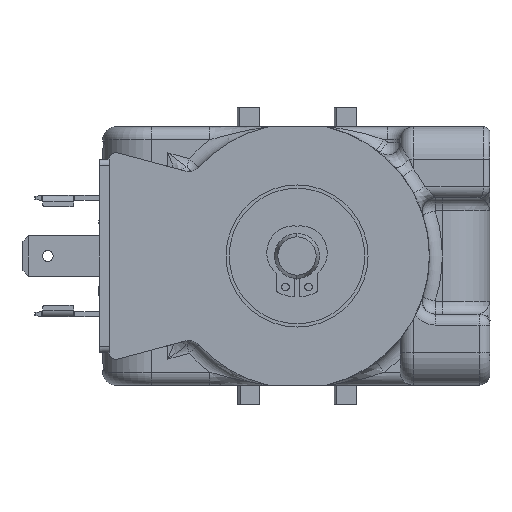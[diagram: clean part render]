
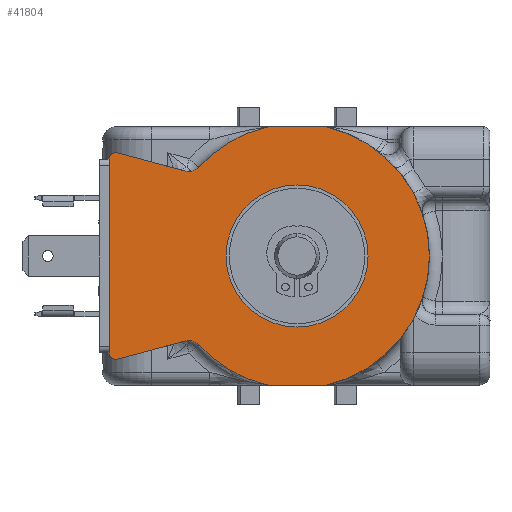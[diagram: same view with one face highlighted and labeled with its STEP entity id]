
A CAD part, front view. The second image highlights one B-rep face of the part: STEP entity #41804.
In plain terms, the highlighted planar face has unit normal (0, -1, 0).
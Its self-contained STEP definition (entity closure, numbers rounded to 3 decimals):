
#1483=DIRECTION('',(-1.,0.,0.));
#1484=VECTOR('',#1483,8.772);
#1485=CARTESIAN_POINT('',(4.5,-1.05,20.));
#1486=LINE('',#1485,#1484);
#3994=CARTESIAN_POINT('',(-28.107,-1.05,-15.025));
#3995=DIRECTION('',(0.,1.,0.));
#3996=DIRECTION('',(0.259,0.,-0.966));
#3997=AXIS2_PLACEMENT_3D('',#3994,#3995,#3996);
#4002=CARTESIAN_POINT('',(-28.107,-1.05,15.025));
#4003=DIRECTION('',(0.,1.,0.));
#4004=DIRECTION('',(-1.,0.,0.));
#4005=AXIS2_PLACEMENT_3D('',#4002,#4003,#4004);
#4010=DIRECTION('',(0.966,0.,-0.259));
#4011=VECTOR('',#4010,11.002);
#4012=CARTESIAN_POINT('',(-27.848,-1.05,15.991));
#4013=LINE('',#4012,#4011);
#4017=CARTESIAN_POINT('',(-16.703,-1.05,15.075));
#4018=DIRECTION('',(0.,-1.,0.));
#4019=DIRECTION('',(-0.259,0.,-0.966));
#4020=AXIS2_PLACEMENT_3D('',#4017,#4018,#4019);
#4025=CARTESIAN_POINT('',(0.,-1.05,0.));
#4026=DIRECTION('',(0.,1.,0.));
#4027=DIRECTION('',(-0.742,0.,0.67));
#4028=AXIS2_PLACEMENT_3D('',#4025,#4026,#4027);
#4033=CARTESIAN_POINT('',(-4.272,-1.05,18.));
#4034=DIRECTION('',(0.,1.,0.));
#4035=DIRECTION('',(-0.231,0.,0.973));
#4036=AXIS2_PLACEMENT_3D('',#4033,#4034,#4035);
#4041=CARTESIAN_POINT('',(0.,-1.05,0.));
#4042=DIRECTION('',(0.,1.,0.));
#4043=DIRECTION('',(0.22,0.,0.976));
#4044=AXIS2_PLACEMENT_3D('',#4041,#4042,#4043);
#4049=CARTESIAN_POINT('',(0.,-1.05,0.));
#4050=DIRECTION('',(0.,1.,0.));
#4051=DIRECTION('',(1.,0.,0.));
#4052=AXIS2_PLACEMENT_3D('',#4049,#4050,#4051);
#4057=DIRECTION('',(-1.,0.,0.));
#4058=VECTOR('',#4057,8.772);
#4059=CARTESIAN_POINT('',(4.5,-1.05,-20.));
#4060=LINE('',#4059,#4058);
#4064=CARTESIAN_POINT('',(-4.272,-1.05,-18.));
#4065=DIRECTION('',(0.,1.,0.));
#4066=DIRECTION('',(0.,0.,-1.));
#4067=AXIS2_PLACEMENT_3D('',#4064,#4065,#4066);
#4072=CARTESIAN_POINT('',(0.,-1.05,0.));
#4073=DIRECTION('',(0.,1.,0.));
#4074=DIRECTION('',(-0.231,0.,-0.973));
#4075=AXIS2_PLACEMENT_3D('',#4072,#4073,#4074);
#4080=CARTESIAN_POINT('',(-16.703,-1.05,-15.075));
#4081=DIRECTION('',(0.,-1.,0.));
#4082=DIRECTION('',(0.742,0.,0.67));
#4083=AXIS2_PLACEMENT_3D('',#4080,#4081,#4082);
#4088=DIRECTION('',(-0.966,0.,-0.259));
#4089=VECTOR('',#4088,11.002);
#4090=CARTESIAN_POINT('',(-17.221,-1.05,-13.143));
#4091=LINE('',#4090,#4089);
#4095=CARTESIAN_POINT('',(0.,-1.05,0.));
#4096=DIRECTION('',(0.,-1.,0.));
#4097=DIRECTION('',(0.,0.,1.));
#4098=AXIS2_PLACEMENT_3D('',#4095,#4096,#4097);
#4103=CARTESIAN_POINT('',(0.,-1.05,0.));
#4104=DIRECTION('',(0.,-1.,0.));
#4105=DIRECTION('',(0.,0.,-1.));
#4106=AXIS2_PLACEMENT_3D('',#4103,#4104,#4105);
#4383=DIRECTION('',(0.,0.,-1.));
#4384=VECTOR('',#4383,30.05);
#4385=CARTESIAN_POINT('',(-29.107,-1.05,15.025));
#4386=LINE('',#4385,#4384);
#34208=CARTESIAN_POINT('',(4.5,-1.05,20.));
#34209=VERTEX_POINT('',#34208);
#34210=CARTESIAN_POINT('',(-4.272,-1.05,20.));
#34211=VERTEX_POINT('',#34210);
#34411=CARTESIAN_POINT('',(-4.272,-1.05,-20.));
#34412=VERTEX_POINT('',#34411);
#34413=CARTESIAN_POINT('',(4.5,-1.05,-20.));
#34414=VERTEX_POINT('',#34413);
#37245=CARTESIAN_POINT('',(-29.107,-1.05,-15.025));
#37247=VERTEX_POINT('',#37245);
#37252=CARTESIAN_POINT('',(-29.107,-1.05,15.025));
#37253=VERTEX_POINT('',#37252);
#37478=CARTESIAN_POINT('',(0.,-1.05,11.));
#37479=CARTESIAN_POINT('',(0.,-1.05,-11.));
#37480=VERTEX_POINT('',#37478);
#37481=VERTEX_POINT('',#37479);
#37482=CARTESIAN_POINT('',(-27.848,-1.05,-15.991));
#37483=VERTEX_POINT('',#37482);
#37484=CARTESIAN_POINT('',(-27.848,-1.05,15.991));
#37485=VERTEX_POINT('',#37484);
#37486=CARTESIAN_POINT('',(-17.221,-1.05,13.143));
#37487=VERTEX_POINT('',#37486);
#37488=CARTESIAN_POINT('',(-15.218,-1.05,13.735));
#37489=VERTEX_POINT('',#37488);
#37490=CARTESIAN_POINT('',(-4.734,-1.05,19.946));
#37491=VERTEX_POINT('',#37490);
#37492=CARTESIAN_POINT('',(20.5,-1.05,0.));
#37493=VERTEX_POINT('',#37492);
#37494=CARTESIAN_POINT('',(-4.734,-1.05,-19.946));
#37495=VERTEX_POINT('',#37494);
#37496=CARTESIAN_POINT('',(-15.218,-1.05,-13.735));
#37497=VERTEX_POINT('',#37496);
#37498=CARTESIAN_POINT('',(-17.221,-1.05,-13.143));
#37499=VERTEX_POINT('',#37498);
#41766=CARTESIAN_POINT('',(-30.107,-1.05,-20.));
#41767=DIRECTION('',(0.,-1.,0.));
#41768=DIRECTION('',(1.,0.,0.));
#41769=AXIS2_PLACEMENT_3D('',#41766,#41767,#41768);
#41770=PLANE('',#41769);
#41772=ORIENTED_EDGE('',*,*,#41771,.T.);
#41774=ORIENTED_EDGE('',*,*,#41773,.F.);
#41775=ORIENTED_EDGE('',*,*,#41756,.T.);
#41776=ORIENTED_EDGE('',*,*,#41746,.T.);
#41777=ORIENTED_EDGE('',*,*,#41616,.T.);
#41779=ORIENTED_EDGE('',*,*,#41778,.T.);
#41781=ORIENTED_EDGE('',*,*,#41780,.T.);
#41782=ORIENTED_EDGE('',*,*,#39397,.F.);
#41784=ORIENTED_EDGE('',*,*,#41783,.T.);
#41786=ORIENTED_EDGE('',*,*,#41785,.T.);
#41787=ORIENTED_EDGE('',*,*,#41001,.T.);
#41789=ORIENTED_EDGE('',*,*,#41788,.T.);
#41791=ORIENTED_EDGE('',*,*,#41790,.T.);
#41793=ORIENTED_EDGE('',*,*,#41792,.T.);
#41795=ORIENTED_EDGE('',*,*,#41794,.T.);
#41796=EDGE_LOOP('',(#41772,#41774,#41775,#41776,#41777,#41779,#41781,#41782,
#41784,#41786,#41787,#41789,#41791,#41793,#41795));
#41797=FACE_OUTER_BOUND('',#41796,.F.);
#41799=ORIENTED_EDGE('',*,*,#41798,.T.);
#41801=ORIENTED_EDGE('',*,*,#41800,.T.);
#41802=EDGE_LOOP('',(#41799,#41801));
#41803=FACE_BOUND('',#41802,.F.);
#3998=CIRCLE('',#3997,1.);
#4006=CIRCLE('',#4005,1.);
#4021=CIRCLE('',#4020,2.);
#4029=CIRCLE('',#4028,20.5);
#4037=CIRCLE('',#4036,2.);
#4045=CIRCLE('',#4044,20.5);
#4053=CIRCLE('',#4052,20.5);
#4068=CIRCLE('',#4067,2.);
#4076=CIRCLE('',#4075,20.5);
#4084=CIRCLE('',#4083,2.);
#4099=CIRCLE('',#4098,11.);
#4107=CIRCLE('',#4106,11.);
#39397=EDGE_CURVE('',#34209,#34211,#1486,.T.);
#41001=EDGE_CURVE('',#34414,#34412,#4060,.T.);
#41616=EDGE_CURVE('',#37487,#37489,#4021,.T.);
#41746=EDGE_CURVE('',#37485,#37487,#4013,.T.);
#41756=EDGE_CURVE('',#37253,#37485,#4006,.T.);
#41771=EDGE_CURVE('',#37483,#37247,#3998,.T.);
#41773=EDGE_CURVE('',#37253,#37247,#4386,.T.);
#41778=EDGE_CURVE('',#37489,#37491,#4029,.T.);
#41780=EDGE_CURVE('',#37491,#34211,#4037,.T.);
#41783=EDGE_CURVE('',#34209,#37493,#4045,.T.);
#41785=EDGE_CURVE('',#37493,#34414,#4053,.T.);
#41788=EDGE_CURVE('',#34412,#37495,#4068,.T.);
#41790=EDGE_CURVE('',#37495,#37497,#4076,.T.);
#41792=EDGE_CURVE('',#37497,#37499,#4084,.T.);
#41794=EDGE_CURVE('',#37499,#37483,#4091,.T.);
#41798=EDGE_CURVE('',#37480,#37481,#4099,.T.);
#41800=EDGE_CURVE('',#37481,#37480,#4107,.T.);
#41804=ADVANCED_FACE('',(#41797,#41803),#41770,.T.);
